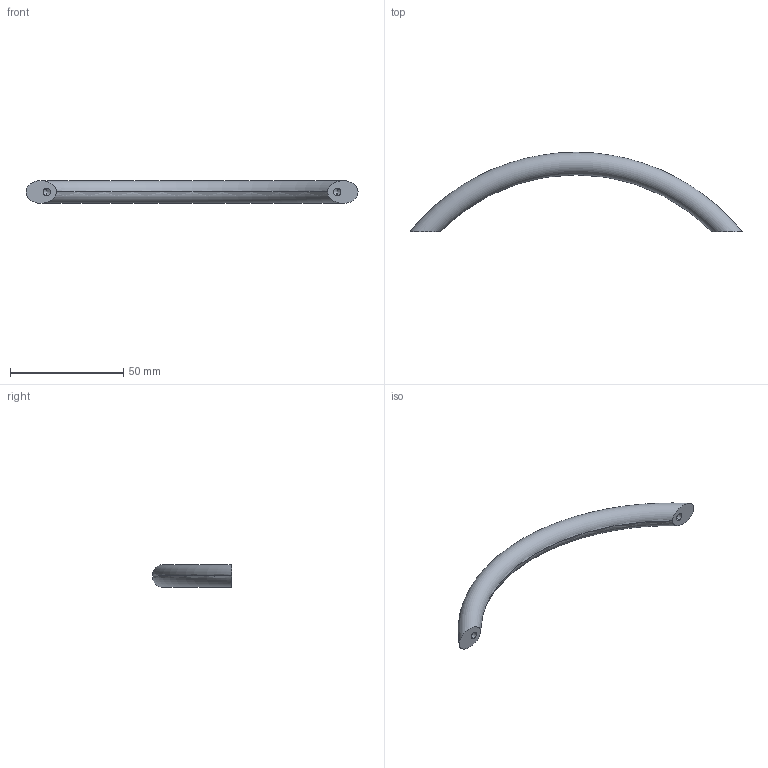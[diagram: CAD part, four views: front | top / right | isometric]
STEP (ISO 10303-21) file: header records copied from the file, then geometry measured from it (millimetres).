
FILE_DESCRIPTION (( 'STEP AP214' ), '1' );
FILE_NAME ('424.1-10-128-SR.step', '2020-02-13T13:54:07', ( '' ), ( '' ), 'SwSTEP 2.0', 'SolidWorks 2019', '' );
FILE_SCHEMA (( 'AUTOMOTIVE_DESIGN' ));
Length unit declared in the file: millimetre
Products named in the file (1): 424.1-10-128-SR
Bounding box: 146.36 x 34.91 x 9.98 mm (x, y, z)
Volume: 11690.5 mm3; surface area: 5096.8 mm2
Topology: 1 solids, 1 shells, 12 faces, 26 edges, 14 vertices
Faces by surface type: cylinder 4, cone 4, torus 2, plane 2
Entity records: 526 total; most frequent: CARTESIAN_POINT 205, DIRECTION 54, ORIENTED_EDGE 44, AXIS2_PLACEMENT_3D 23, EDGE_CURVE 22, VERTEX_POINT 14, EDGE_LOOP 14, ADVANCED_FACE 12
